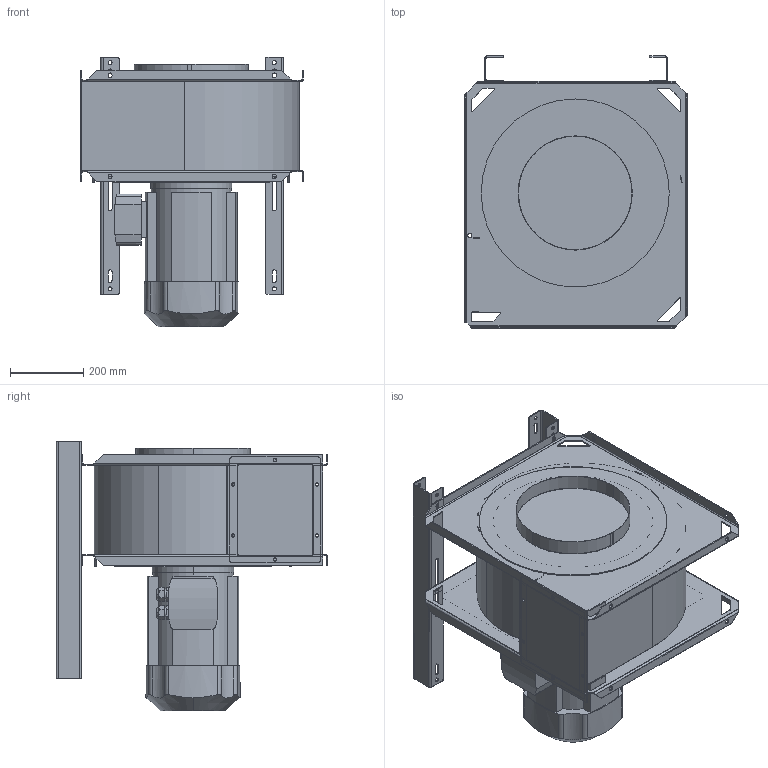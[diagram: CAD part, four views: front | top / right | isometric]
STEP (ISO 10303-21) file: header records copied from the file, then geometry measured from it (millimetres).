
FILE_DESCRIPTION((''),'2;1');
FILE_NAME('FTE_750_LG90','2022-10-13T14:50:17',('Tomas Bellgran'),(''),'CREO PARAMETRIC BY PTC INC, 2018260','CREO PARAMETRIC BY PTC INC, 2018260','');
FILE_SCHEMA(('AUTOMOTIVE_DESIGN { 1 0 10303 214 1 1 1 1 }'));
Length unit declared in the file: millimetre
Products named in the file (13): 115657; 115660; 115661; 115654; 116814; 115705; 115707; 115701; 4A3_132S_B5_L; 120072; 107961; 116970; FTE_750_LG90
Assembly tree (13 placements, depth 3):
  FTE_750_LG90
    115654
      115657
      115660
      115661
    116814
    115701
      115705
      115707
    120072
      4A3_132S_B5_L
    107961  x2
    116970
Bounding box: 610.8 x 745 x 739 mm (x, y, z)
Volume: 27293093.1 mm3; surface area: 4694079.9 mm2
Topology: 11 solids, 11 shells, 705 faces, 1806 edges, 1136 vertices
Faces by surface type: plane 398, cylinder 269, bspline 32, cone 6
Entity records: 31334 total; most frequent: CARTESIAN_POINT 5516, ORIENTED_EDGE 3260, DIRECTION 3244, PRESENTATION_STYLE_ASSIGNMENT 2279, STYLED_ITEM 2279, CURVE_STYLE 1630, EDGE_CURVE 1630, VECTOR 1098
